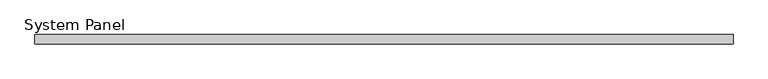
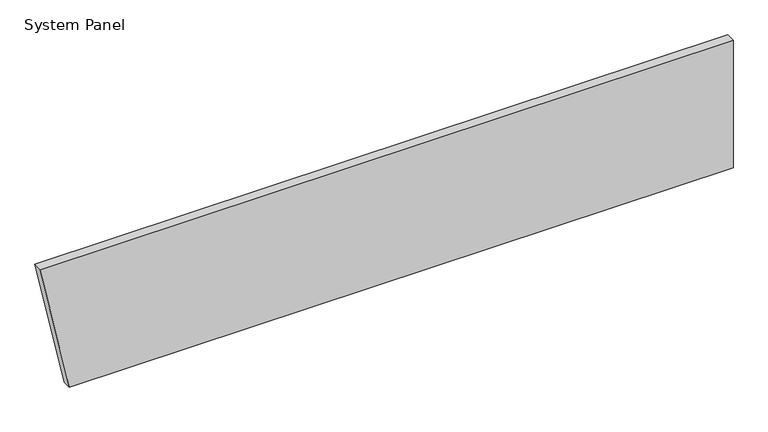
"""IFC4 building model written with IfcOpenShell, lengths in millimetres: plate geometry, System Panel : MetecnoPanel 75mm Horizontal - Plain Astro - PIR."""

from ifc_helpers import new_model, si_unit, frame, origin, place, context, project, spatial, polyline, outline, extrude, source, transform, mapped, element, save


def system_panel_d869a469(model_context):
    return source(origin(), model_context, "Body", "SweptSolid", [
        extrude(outline(polyline([(0.0, -2590.0), (0.0, 2829.1323567), (1100.0, 2829.1323567), (1100.0, -2829.1323567), (0.0, -2590.0)])), frame((0.0, -75.0, 0.0), z_axis=(0.0, 1.0, 0.0), x_axis=(0.0, 0.0, 1.0)), (0.0, 0.0, 1.0), 75.0),
    ])


if __name__ == "__main__":
    model = new_model("IFC4")
    model_context = context("Model", 3, world=origin())
    ifc_project = project(units=[si_unit("LENGTHUNIT", "METRE", prefix="MILLI")], contexts=[model_context])
    site = spatial("IfcSite", under=ifc_project)
    building = spatial("IfcBuilding", under=site)
    placement = place(None, origin())
    system_panel_shape = system_panel_d869a469(model_context)
    element("IfcPlate", 1, ObjectType="System Panel : MetecnoPanel 75mm Horizontal - Plain Astro - PIR", at=placement, inside=building, context=model_context, shape_type="MappedRepresentation", body=[
        mapped(system_panel_shape, transform((0.0, 0.0, 0.0), x_axis=(1.0, 0.0, 0.0), y_axis=(0.0, 1.0, 0.0), z_axis=(0.0, 0.0, 1.0))),
    ])
    save(model, "model.ifc")
